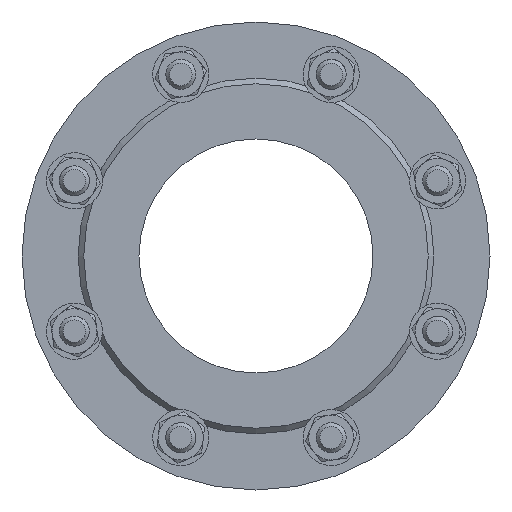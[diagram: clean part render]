
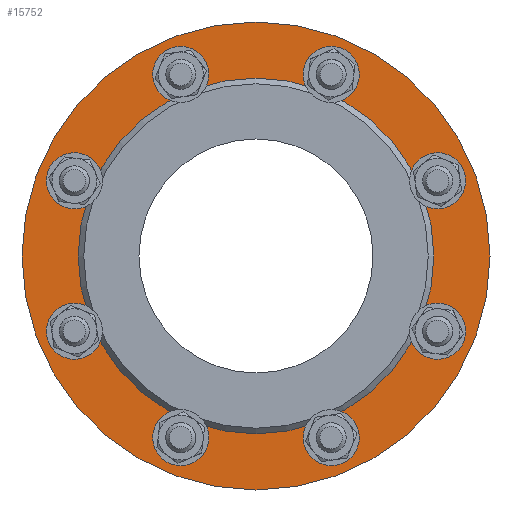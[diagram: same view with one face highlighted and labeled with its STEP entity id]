
A CAD part, left-side view. The second image highlights one B-rep face of the part: STEP entity #15752.
In plain terms, the highlighted planar face has unit normal (-1, 0, 0).
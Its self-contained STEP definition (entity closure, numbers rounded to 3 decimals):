
#346 = CARTESIAN_POINT ( 'NONE',  ( -10., -97.007, 40.182 ) ) ;
#418 = EDGE_CURVE ( 'NONE', #11966, #11966, #9334, .T. ) ;
#792 = CIRCLE ( 'NONE', #14584, 8. ) ;
#1001 = VERTEX_POINT ( 'NONE', #27509 ) ;
#1186 = DIRECTION ( 'NONE',  ( 0., -1., 0. ) ) ;
#1297 = EDGE_LOOP ( 'NONE', ( #9303 ) ) ;
#1398 = CARTESIAN_POINT ( 'NONE',  ( -10., 97.007, 40.182 ) ) ;
#1603 = FACE_BOUND ( 'NONE', #25010, .T. ) ;
#2135 = ORIENTED_EDGE ( 'NONE', *, *, #11767, .F. ) ;
#2502 = ORIENTED_EDGE ( 'NONE', *, *, #27865, .F. ) ;
#2990 = VERTEX_POINT ( 'NONE', #6877 ) ;
#3022 = CARTESIAN_POINT ( 'NONE',  ( -10., 97.007, -48.182 ) ) ;
#3199 = AXIS2_PLACEMENT_3D ( 'NONE', #346, #8843, #11284 ) ;
#3419 = DIRECTION ( 'NONE',  ( -1., 0., 0. ) ) ;
#3792 = DIRECTION ( 'NONE',  ( 0., 0., -1. ) ) ;
#4137 = ORIENTED_EDGE ( 'NONE', *, *, #418, .T. ) ;
#4193 = FACE_BOUND ( 'NONE', #12564, .T. ) ;
#4476 = DIRECTION ( 'NONE',  ( -1., 0., 0. ) ) ;
#4619 = DIRECTION ( 'NONE',  ( 0., 0., -1. ) ) ;
#4644 = EDGE_LOOP ( 'NONE', ( #13404 ) ) ;
#4748 = AXIS2_PLACEMENT_3D ( 'NONE', #13112, #19170, #12815 ) ;
#4779 = AXIS2_PLACEMENT_3D ( 'NONE', #8317, #6167, #17265 ) ;
#5887 = EDGE_CURVE ( 'NONE', #26085, #26085, #22429, .T. ) ;
#6132 = ORIENTED_EDGE ( 'NONE', *, *, #25099, .F. ) ;
#6167 = DIRECTION ( 'NONE',  ( -1., 0., 0. ) ) ;
#6349 = FACE_BOUND ( 'NONE', #17833, .T. ) ;
#6403 = DIRECTION ( 'NONE',  ( -1., 0., 0. ) ) ;
#6635 = FACE_BOUND ( 'NONE', #28509, .T. ) ;
#6877 = CARTESIAN_POINT ( 'NONE',  ( -10., -97.007, -48.182 ) ) ;
#7412 = CARTESIAN_POINT ( 'NONE',  ( -10., -40.182, 97.007 ) ) ;
#8210 = FACE_BOUND ( 'NONE', #11405, .T. ) ;
#8317 = CARTESIAN_POINT ( 'NONE',  ( -10., 0., 0. ) ) ;
#8423 = VERTEX_POINT ( 'NONE', #27888 ) ;
#8843 = DIRECTION ( 'NONE',  ( -1., 0., 0. ) ) ;
#8851 = EDGE_LOOP ( 'NONE', ( #2502 ) ) ;
#9026 = CARTESIAN_POINT ( 'NONE',  ( -10., 97.007, 32.182 ) ) ;
#9159 = CIRCLE ( 'NONE', #3199, 8. ) ;
#9303 = ORIENTED_EDGE ( 'NONE', *, *, #5887, .F. ) ;
#9334 = CIRCLE ( 'NONE', #4779, 125. ) ;
#9772 = VERTEX_POINT ( 'NONE', #27922 ) ;
#9881 = VERTEX_POINT ( 'NONE', #18810 ) ;
#9958 = DIRECTION ( 'NONE',  ( -1., 0., 0. ) ) ;
#10504 = EDGE_CURVE ( 'NONE', #22465, #22465, #24812, .T. ) ;
#10942 = FACE_OUTER_BOUND ( 'NONE', #26295, .T. ) ;
#11284 = DIRECTION ( 'NONE',  ( 0., 0., -1. ) ) ;
#11307 = DIRECTION ( 'NONE',  ( -1., 0., 0. ) ) ;
#11405 = EDGE_LOOP ( 'NONE', ( #15865 ) ) ;
#11588 = DIRECTION ( 'NONE',  ( 0., 0., -1. ) ) ;
#11767 = EDGE_CURVE ( 'NONE', #1001, #1001, #27627, .T. ) ;
#11966 = VERTEX_POINT ( 'NONE', #20769 ) ;
#12272 = DIRECTION ( 'NONE',  ( -1., 0., 0. ) ) ;
#12517 = FACE_BOUND ( 'NONE', #1297, .T. ) ;
#12564 = EDGE_LOOP ( 'NONE', ( #16377 ) ) ;
#12586 = DIRECTION ( 'NONE',  ( -1., 0., 0. ) ) ;
#12674 = CARTESIAN_POINT ( 'NONE',  ( -10., 0., 0. ) ) ;
#12813 = CARTESIAN_POINT ( 'NONE',  ( -10., -97.007, -40.182 ) ) ;
#12815 = DIRECTION ( 'NONE',  ( 0., 1., 0. ) ) ;
#12911 = DIRECTION ( 'NONE',  ( 0., 0., -1. ) ) ;
#13112 = CARTESIAN_POINT ( 'NONE',  ( -10., 0., 125. ) ) ;
#13143 = AXIS2_PLACEMENT_3D ( 'NONE', #12813, #4476, #4619 ) ;
#13404 = ORIENTED_EDGE ( 'NONE', *, *, #28207, .F. ) ;
#13939 = EDGE_CURVE ( 'NONE', #9772, #9772, #23585, .T. ) ;
#14584 = AXIS2_PLACEMENT_3D ( 'NONE', #1398, #3419, #27756 ) ;
#14805 = AXIS2_PLACEMENT_3D ( 'NONE', #23384, #12272, #3792 ) ;
#14833 = PLANE ( 'NONE',  #4748 ) ;
#14981 = FACE_BOUND ( 'NONE', #15246, .T. ) ;
#15246 = EDGE_LOOP ( 'NONE', ( #6132 ) ) ;
#15650 = VERTEX_POINT ( 'NONE', #9026 ) ;
#15752 = ADVANCED_FACE ( 'NONE', ( #4193, #24069, #12517, #6635, #8210, #6349, #14981, #23781, #1603, #10942 ), #14833, .F. ) ;
#15865 = ORIENTED_EDGE ( 'NONE', *, *, #21459, .F. ) ;
#16377 = ORIENTED_EDGE ( 'NONE', *, *, #19790, .F. ) ;
#17222 = CARTESIAN_POINT ( 'NONE',  ( -10., 40.182, 97.007 ) ) ;
#17265 = DIRECTION ( 'NONE',  ( 0., -1., 0. ) ) ;
#17354 = DIRECTION ( 'NONE',  ( 0., 0., -1. ) ) ;
#17833 = EDGE_LOOP ( 'NONE', ( #23544 ) ) ;
#17907 = AXIS2_PLACEMENT_3D ( 'NONE', #22140, #26608, #12911 ) ;
#18027 = CIRCLE ( 'NONE', #22637, 8. ) ;
#18810 = CARTESIAN_POINT ( 'NONE',  ( -10., -97.007, 32.182 ) ) ;
#19170 = DIRECTION ( 'NONE',  ( 1., 0., 0. ) ) ;
#19242 = VERTEX_POINT ( 'NONE', #21400 ) ;
#19516 = CARTESIAN_POINT ( 'NONE',  ( -10., 40.182, -97.007 ) ) ;
#19790 = EDGE_CURVE ( 'NONE', #2990, #2990, #22336, .T. ) ;
#20769 = CARTESIAN_POINT ( 'NONE',  ( -10., -125., 0. ) ) ;
#20795 = CIRCLE ( 'NONE', #14805, 8. ) ;
#21054 = AXIS2_PLACEMENT_3D ( 'NONE', #19516, #6403, #17354 ) ;
#21400 = CARTESIAN_POINT ( 'NONE',  ( -10., 40.182, 89.007 ) ) ;
#21459 = EDGE_CURVE ( 'NONE', #15650, #15650, #792, .T. ) ;
#22140 = CARTESIAN_POINT ( 'NONE',  ( -10., 97.007, -40.182 ) ) ;
#22182 = CARTESIAN_POINT ( 'NONE',  ( -10., 40.182, -105.007 ) ) ;
#22336 = CIRCLE ( 'NONE', #13143, 8. ) ;
#22429 = CIRCLE ( 'NONE', #21054, 8. ) ;
#22465 = VERTEX_POINT ( 'NONE', #3022 ) ;
#22637 = AXIS2_PLACEMENT_3D ( 'NONE', #17222, #12586, #25583 ) ;
#23325 = ORIENTED_EDGE ( 'NONE', *, *, #10504, .F. ) ;
#23384 = CARTESIAN_POINT ( 'NONE',  ( -10., -40.182, -97.007 ) ) ;
#23544 = ORIENTED_EDGE ( 'NONE', *, *, #13939, .F. ) ;
#23585 = CIRCLE ( 'NONE', #24064, 8. ) ;
#23781 = FACE_BOUND ( 'NONE', #8851, .T. ) ;
#24064 = AXIS2_PLACEMENT_3D ( 'NONE', #7412, #11307, #11588 ) ;
#24069 = FACE_BOUND ( 'NONE', #4644, .T. ) ;
#24812 = CIRCLE ( 'NONE', #17907, 8. ) ;
#25010 = EDGE_LOOP ( 'NONE', ( #2135 ) ) ;
#25099 = EDGE_CURVE ( 'NONE', #9881, #9881, #9159, .T. ) ;
#25583 = DIRECTION ( 'NONE',  ( 0., 0., -1. ) ) ;
#26085 = VERTEX_POINT ( 'NONE', #22182 ) ;
#26295 = EDGE_LOOP ( 'NONE', ( #4137 ) ) ;
#26608 = DIRECTION ( 'NONE',  ( -1., 0., 0. ) ) ;
#27174 = AXIS2_PLACEMENT_3D ( 'NONE', #12674, #9958, #1186 ) ;
#27509 = CARTESIAN_POINT ( 'NONE',  ( -10., -95., 0. ) ) ;
#27627 = CIRCLE ( 'NONE', #27174, 95. ) ;
#27756 = DIRECTION ( 'NONE',  ( 0., 0., -1. ) ) ;
#27865 = EDGE_CURVE ( 'NONE', #19242, #19242, #18027, .T. ) ;
#27888 = CARTESIAN_POINT ( 'NONE',  ( -10., -40.182, -105.007 ) ) ;
#27922 = CARTESIAN_POINT ( 'NONE',  ( -10., -40.182, 89.007 ) ) ;
#28207 = EDGE_CURVE ( 'NONE', #8423, #8423, #20795, .T. ) ;
#28509 = EDGE_LOOP ( 'NONE', ( #23325 ) ) ;
